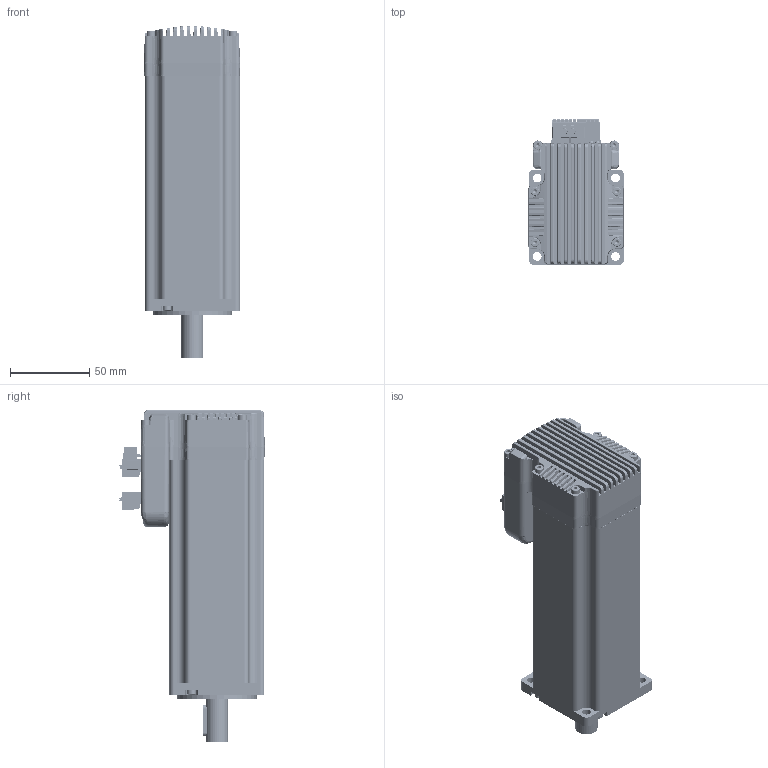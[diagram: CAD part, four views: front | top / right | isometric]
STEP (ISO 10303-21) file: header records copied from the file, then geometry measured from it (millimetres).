
FILE_DESCRIPTION (( 'STEP AP214' ), '1' );
FILE_NAME ('iHSV60-30-40-48-5.5-SC.STEP', '2025-10-10T09:53:41', ( '' ), ( '' ), 'SwSTEP 2.0', 'SolidWorks 2017', '' );
FILE_SCHEMA (( 'AUTOMOTIVE_DESIGN' ));
Length unit declared in the file: millimetre
Products named in the file (1): iHSV60-30-40-48-5.5-SC
Bounding box: 60.44 x 91.84 x 209.78 mm (x, y, z)
Volume: 560734.9 mm3; surface area: 142160.2 mm2
Topology: 53 solids, 143 shells, 7263 faces, 18150 edges, 11364 vertices
Faces by surface type: plane 3693, cylinder 1795, cone 1396, bspline 183, torus 158, sphere 38
Entity records: 230016 total; most frequent: CARTESIAN_POINT 57007, ORIENTED_EDGE 36222, DIRECTION 35372, EDGE_CURVE 18111, LINE 12066, VECTOR 12066, AXIS2_PLACEMENT_3D 11653, VERTEX_POINT 11362
